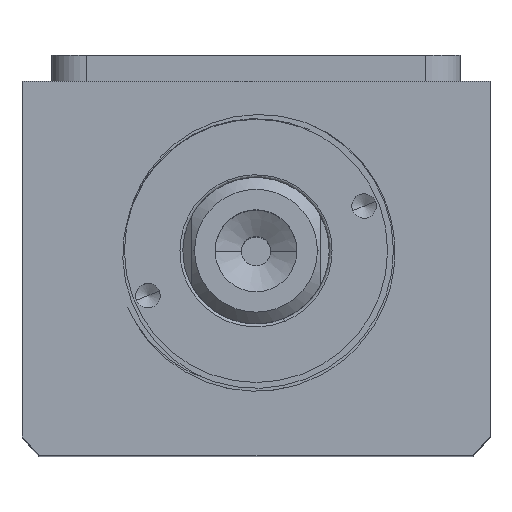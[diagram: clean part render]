
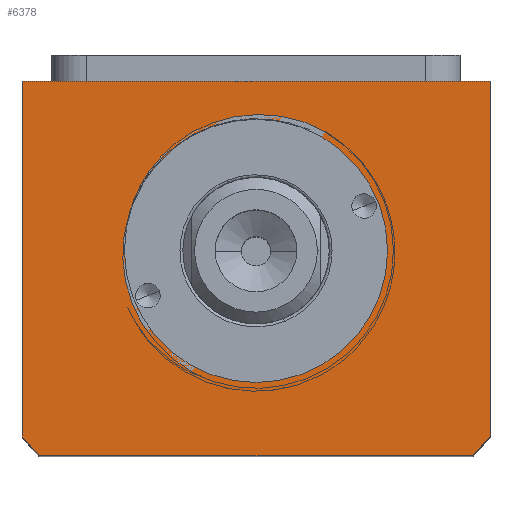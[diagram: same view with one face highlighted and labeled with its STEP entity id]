
A CAD part, top view. The second image highlights one B-rep face of the part: STEP entity #6378.
In plain terms, the highlighted planar face has unit normal (0, 0, 1).
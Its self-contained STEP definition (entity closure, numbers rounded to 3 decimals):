
#229 = DIRECTION ( 'NONE',  ( 0., 0., 1. ) ) ;
#234 = PLANE ( 'NONE',  #2406 ) ;
#543 = CARTESIAN_POINT ( 'NONE',  ( 0., 3., 125. ) ) ;
#597 = DIRECTION ( 'NONE',  ( 0., 1., 0. ) ) ;
#685 = ORIENTED_EDGE ( 'NONE', *, *, #6058, .T. ) ;
#724 = VERTEX_POINT ( 'NONE', #6734 ) ;
#810 = AXIS2_PLACEMENT_3D ( 'NONE', #4967, #229, #5771 ) ;
#826 = ORIENTED_EDGE ( 'NONE', *, *, #7956, .F. ) ;
#847 = EDGE_CURVE ( 'NONE', #724, #10257, #9055, .T. ) ;
#870 = VERTEX_POINT ( 'NONE', #1399 ) ;
#875 = VERTEX_POINT ( 'NONE', #7760 ) ;
#1032 = CARTESIAN_POINT ( 'NONE',  ( -40., -28.639, 125. ) ) ;
#1106 = CARTESIAN_POINT ( 'NONE',  ( -40., 32., 125. ) ) ;
#1195 = CIRCLE ( 'NONE', #3205, 51. ) ;
#1347 = DIRECTION ( 'NONE',  ( 1., 0., 0. ) ) ;
#1399 = CARTESIAN_POINT ( 'NONE',  ( -37.094, -32., 125. ) ) ;
#1815 = DIRECTION ( 'NONE',  ( 0., 0., 1. ) ) ;
#2059 = LINE ( 'NONE', #5343, #8678 ) ;
#2070 = CARTESIAN_POINT ( 'NONE',  ( -40., 32., 125. ) ) ;
#2236 = FACE_OUTER_BOUND ( 'NONE', #8735, .T. ) ;
#2349 = DIRECTION ( 'NONE',  ( 0., -1., 0. ) ) ;
#2406 = AXIS2_PLACEMENT_3D ( 'NONE', #6574, #1815, #7394 ) ;
#2643 = CARTESIAN_POINT ( 'NONE',  ( 40., -28.639, 125. ) ) ;
#2942 = EDGE_CURVE ( 'NONE', #5480, #724, #2059, .T. ) ;
#2978 = CARTESIAN_POINT ( 'NONE',  ( -40., -32., 125. ) ) ;
#3054 = ORIENTED_EDGE ( 'NONE', *, *, #4627, .T. ) ;
#3205 = AXIS2_PLACEMENT_3D ( 'NONE', #3279, #8861, #4073 ) ;
#3275 = AXIS2_PLACEMENT_3D ( 'NONE', #543, #6094, #1347 ) ;
#3279 = CARTESIAN_POINT ( 'NONE',  ( 0., 3., 125. ) ) ;
#3466 = VECTOR ( 'NONE', #2349, 1000. ) ;
#3475 = VECTOR ( 'NONE', #9367, 1000. ) ;
#3669 = ORIENTED_EDGE ( 'NONE', *, *, #7121, .T. ) ;
#3738 = LINE ( 'NONE', #2978, #3475 ) ;
#3748 = DIRECTION ( 'NONE',  ( -1., 0., 0. ) ) ;
#3915 = CARTESIAN_POINT ( 'NONE',  ( -40., 32., 125. ) ) ;
#4073 = DIRECTION ( 'NONE',  ( 1., 0., 0. ) ) ;
#4590 = CARTESIAN_POINT ( 'NONE',  ( 0., 3., 125. ) ) ;
#4627 = EDGE_CURVE ( 'NONE', #8918, #870, #1195, .T. ) ;
#4787 = ORIENTED_EDGE ( 'NONE', *, *, #8903, .F. ) ;
#4789 = VECTOR ( 'NONE', #3748, 1000. ) ;
#4967 = CARTESIAN_POINT ( 'NONE',  ( 0., 3., 125. ) ) ;
#5050 = EDGE_CURVE ( 'NONE', #870, #875, #3738, .T. ) ;
#5240 = VERTEX_POINT ( 'NONE', #8048 ) ;
#5343 = CARTESIAN_POINT ( 'NONE',  ( 40., 32., 125. ) ) ;
#5386 = DIRECTION ( 'NONE',  ( 1., 0., 0. ) ) ;
#5480 = VERTEX_POINT ( 'NONE', #2643 ) ;
#5771 = DIRECTION ( 'NONE',  ( 1., 0., 0. ) ) ;
#6058 = EDGE_CURVE ( 'NONE', #10257, #8918, #10099, .T. ) ;
#6075 = CIRCLE ( 'NONE', #810, 22.5 ) ;
#6094 = DIRECTION ( 'NONE',  ( 0., 0., 1. ) ) ;
#6110 = EDGE_LOOP ( 'NONE', ( #4787, #826 ) ) ;
#6378 = ADVANCED_FACE ( 'NONE', ( #6450, #2236 ), #234, .T. ) ;
#6450 = FACE_BOUND ( 'NONE', #6110, .T. ) ;
#6574 = CARTESIAN_POINT ( 'NONE',  ( 0., 0., 125. ) ) ;
#6734 = CARTESIAN_POINT ( 'NONE',  ( 40., 32., 125. ) ) ;
#6826 = CIRCLE ( 'NONE', #9429, 22.5 ) ;
#7121 = EDGE_CURVE ( 'NONE', #875, #5480, #8465, .T. ) ;
#7394 = DIRECTION ( 'NONE',  ( 1., 0., 0. ) ) ;
#7760 = CARTESIAN_POINT ( 'NONE',  ( 37.094, -32., 125. ) ) ;
#7956 = EDGE_CURVE ( 'NONE', #8121, #5240, #6826, .T. ) ;
#8048 = CARTESIAN_POINT ( 'NONE',  ( 22.5, 3., 125. ) ) ;
#8121 = VERTEX_POINT ( 'NONE', #8870 ) ;
#8286 = ORIENTED_EDGE ( 'NONE', *, *, #847, .T. ) ;
#8296 = ORIENTED_EDGE ( 'NONE', *, *, #2942, .T. ) ;
#8465 = CIRCLE ( 'NONE', #3275, 51. ) ;
#8678 = VECTOR ( 'NONE', #597, 1000. ) ;
#8735 = EDGE_LOOP ( 'NONE', ( #685, #3054, #9053, #3669, #8296, #8286 ) ) ;
#8861 = DIRECTION ( 'NONE',  ( 0., 0., 1. ) ) ;
#8870 = CARTESIAN_POINT ( 'NONE',  ( -22.5, 3., 125. ) ) ;
#8903 = EDGE_CURVE ( 'NONE', #5240, #8121, #6075, .T. ) ;
#8918 = VERTEX_POINT ( 'NONE', #1032 ) ;
#9053 = ORIENTED_EDGE ( 'NONE', *, *, #5050, .T. ) ;
#9055 = LINE ( 'NONE', #2070, #4789 ) ;
#9367 = DIRECTION ( 'NONE',  ( 1., 0., 0. ) ) ;
#9429 = AXIS2_PLACEMENT_3D ( 'NONE', #4590, #10192, #5386 ) ;
#10099 = LINE ( 'NONE', #3915, #3466 ) ;
#10192 = DIRECTION ( 'NONE',  ( 0., 0., 1. ) ) ;
#10257 = VERTEX_POINT ( 'NONE', #1106 ) ;
